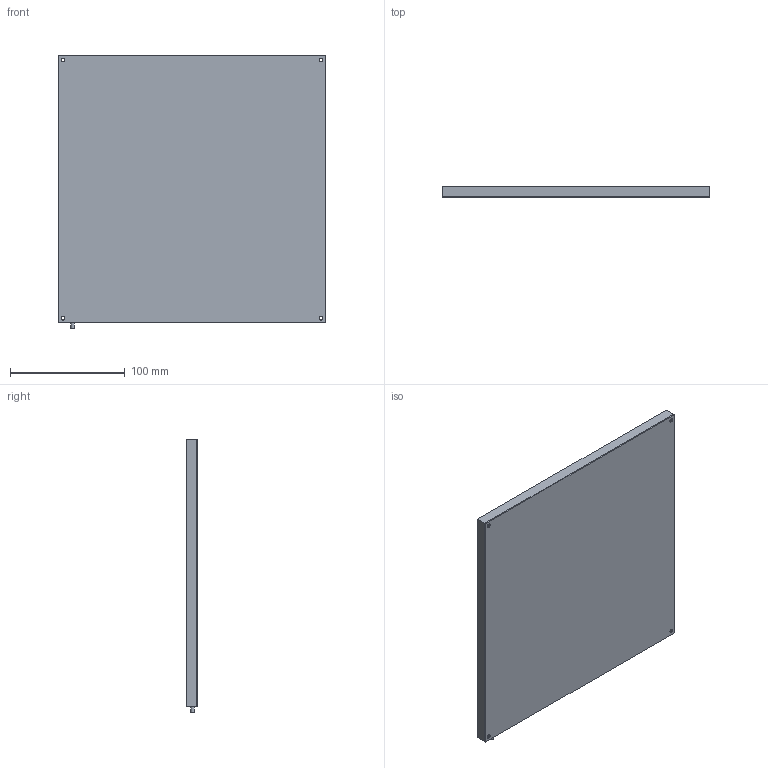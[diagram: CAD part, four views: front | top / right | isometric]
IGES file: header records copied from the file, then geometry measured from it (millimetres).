
Global section: file name: 153-00757_LF 200 xD-24-KFL5; native system: Autodesk Inventor 2018; preprocessor: unknown; author: ss; date: 20180725.104733; units: millimetre
Bounding box: 233 x 10 x 238 mm (x, y, z)
Volume: 522297.1 mm3; surface area: 118818.9 mm2
Topology: 1 solids, 1 shells, 37 faces, 95 edges, 70 vertices
Faces by surface type: bspline 37
